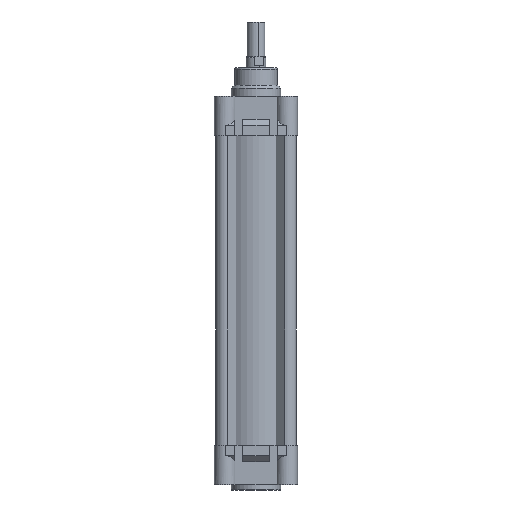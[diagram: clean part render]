
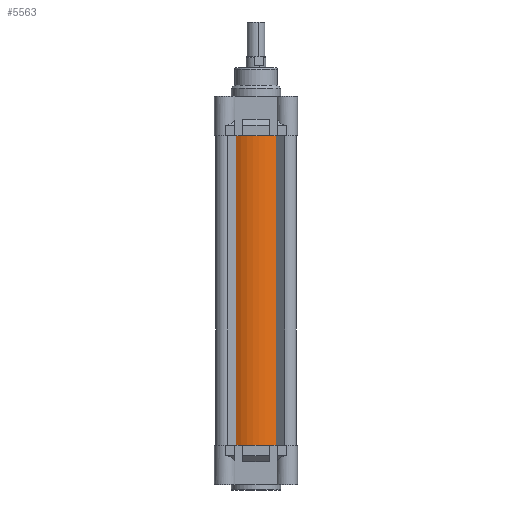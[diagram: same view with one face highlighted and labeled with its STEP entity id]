
A CAD part, front view. The second image highlights one B-rep face of the part: STEP entity #5563.
In plain terms, the highlighted cylindrical face has radius 34 mm (diameter 68 mm), a partial arc.
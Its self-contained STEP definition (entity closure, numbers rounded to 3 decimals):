
#116 = CARTESIAN_POINT ( 'NONE',  ( 37., 37., 283. ) ) ;
#449 = DIRECTION ( 'NONE',  ( 0., 0., -1. ) ) ;
#650 = CIRCLE ( 'NONE', #7905, 34. ) ;
#1189 = DIRECTION ( 'NONE',  ( 0., 0., 1. ) ) ;
#1847 = ORIENTED_EDGE ( 'NONE', *, *, #7377, .F. ) ;
#2532 = CARTESIAN_POINT ( 'NONE',  ( 18.681, 8.357, 283. ) ) ;
#4600 = VERTEX_POINT ( 'NONE', #15854 ) ;
#5087 = CARTESIAN_POINT ( 'NONE',  ( 37., 37., 283. ) ) ;
#5291 = CARTESIAN_POINT ( 'NONE',  ( 55.319, 8.357, 283. ) ) ;
#5450 = ORIENTED_EDGE ( 'NONE', *, *, #13333, .T. ) ;
#5563 = ADVANCED_FACE ( 'NONE', ( #20858 ), #18485, .T. ) ;
#5997 = VERTEX_POINT ( 'NONE', #15127 ) ;
#6488 = EDGE_CURVE ( 'NONE', #5997, #4600, #650, .T. ) ;
#6747 = DIRECTION ( 'NONE',  ( 1., 0., 0. ) ) ;
#7377 = EDGE_CURVE ( 'NONE', #15550, #4600, #19994, .T. ) ;
#7623 = ORIENTED_EDGE ( 'NONE', *, *, #6488, .T. ) ;
#7905 = AXIS2_PLACEMENT_3D ( 'NONE', #19585, #1189, #12935 ) ;
#7959 = LINE ( 'NONE', #2532, #17533 ) ;
#8153 = EDGE_CURVE ( 'NONE', #9837, #15550, #11042, .T. ) ;
#8339 = DIRECTION ( 'NONE',  ( -1., 0., 0. ) ) ;
#8411 = DIRECTION ( 'NONE',  ( 0., 0., -1. ) ) ;
#9602 = ORIENTED_EDGE ( 'NONE', *, *, #8153, .F. ) ;
#9837 = VERTEX_POINT ( 'NONE', #12364 ) ;
#11042 = CIRCLE ( 'NONE', #14401, 34. ) ;
#11540 = DIRECTION ( 'NONE',  ( 0., 0., 1. ) ) ;
#12364 = CARTESIAN_POINT ( 'NONE',  ( 18.681, 8.357, 283. ) ) ;
#12935 = DIRECTION ( 'NONE',  ( 1., 0., 0. ) ) ;
#13228 = AXIS2_PLACEMENT_3D ( 'NONE', #116, #8411, #8339 ) ;
#13333 = EDGE_CURVE ( 'NONE', #9837, #5997, #7959, .T. ) ;
#14401 = AXIS2_PLACEMENT_3D ( 'NONE', #5087, #11540, #6747 ) ;
#14866 = EDGE_LOOP ( 'NONE', ( #7623, #1847, #9602, #5450 ) ) ;
#15127 = CARTESIAN_POINT ( 'NONE',  ( 18.681, 8.357, 0. ) ) ;
#15550 = VERTEX_POINT ( 'NONE', #21620 ) ;
#15854 = CARTESIAN_POINT ( 'NONE',  ( 55.319, 8.357, 0. ) ) ;
#17383 = DIRECTION ( 'NONE',  ( 0., 0., -1. ) ) ;
#17533 = VECTOR ( 'NONE', #17383, 1000. ) ;
#18402 = VECTOR ( 'NONE', #449, 1000. ) ;
#18485 = CYLINDRICAL_SURFACE ( 'NONE', #13228, 34. ) ;
#19585 = CARTESIAN_POINT ( 'NONE',  ( 37., 37., 0. ) ) ;
#19994 = LINE ( 'NONE', #5291, #18402 ) ;
#20858 = FACE_OUTER_BOUND ( 'NONE', #14866, .T. ) ;
#21620 = CARTESIAN_POINT ( 'NONE',  ( 55.319, 8.357, 283. ) ) ;
